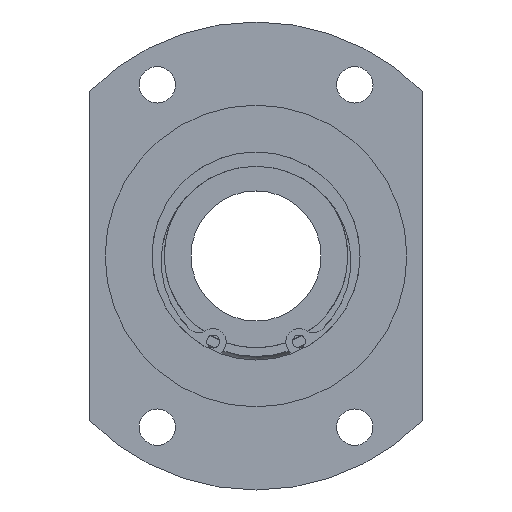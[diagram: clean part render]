
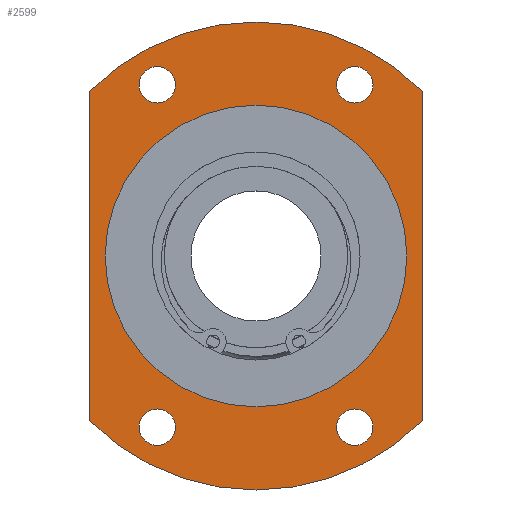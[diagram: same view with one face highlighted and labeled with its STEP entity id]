
A CAD part, left-side view. The second image highlights one B-rep face of the part: STEP entity #2599.
In plain terms, the highlighted planar face has unit normal (-1, 0, 0).
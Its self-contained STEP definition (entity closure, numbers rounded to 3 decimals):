
#2359=CARTESIAN_POINT('',(11.0,22.5,-32.909));
#2360=VERTEX_POINT('',#2359);
#2361=CARTESIAN_POINT('',(11.,19.,-32.909));
#2362=DIRECTION('',(1.0,0.0,0.0));
#2363=DIRECTION('',(0.0,1.0,0.0));
#2364=AXIS2_PLACEMENT_3D('',#2361,#2362,#2363);
#2365=CIRCLE('',#2364,3.5);
#2366=EDGE_CURVE('',#2360,#2360,#2365,.T.);
#2387=CARTESIAN_POINT('',(11.0,-15.5,32.909));
#2388=VERTEX_POINT('',#2387);
#2389=CARTESIAN_POINT('',(11.,-19.,32.909));
#2390=DIRECTION('',(1.0,0.0,0.0));
#2391=DIRECTION('',(0.0,1.0,0.0));
#2392=AXIS2_PLACEMENT_3D('',#2389,#2390,#2391);
#2393=CIRCLE('',#2392,3.5);
#2394=EDGE_CURVE('',#2388,#2388,#2393,.T.);
#2415=CARTESIAN_POINT('',(11.0,22.5,32.909));
#2416=VERTEX_POINT('',#2415);
#2417=CARTESIAN_POINT('',(11.,19.,32.909));
#2418=DIRECTION('',(1.0,0.0,0.0));
#2419=DIRECTION('',(0.0,1.0,0.0));
#2420=AXIS2_PLACEMENT_3D('',#2417,#2418,#2419);
#2421=CIRCLE('',#2420,3.5);
#2422=EDGE_CURVE('',#2416,#2416,#2421,.T.);
#2443=CARTESIAN_POINT('',(11.0,-15.5,-32.909));
#2444=VERTEX_POINT('',#2443);
#2445=CARTESIAN_POINT('',(11.,-19.,-32.909));
#2446=DIRECTION('',(1.0,0.0,0.0));
#2447=DIRECTION('',(0.0,1.0,0.0));
#2448=AXIS2_PLACEMENT_3D('',#2445,#2446,#2447);
#2449=CIRCLE('',#2448,3.5);
#2450=EDGE_CURVE('',#2444,#2444,#2449,.T.);
#2470=CARTESIAN_POINT('',(11.0,32.,-31.639));
#2471=VERTEX_POINT('',#2470);
#2478=CARTESIAN_POINT('',(11.0,32.,31.639));
#2479=VERTEX_POINT('',#2478);
#2480=CARTESIAN_POINT('',(11.0,32.,31.639));
#2481=DIRECTION('',(0.0,0.0,-1.0));
#2482=VECTOR('',#2481,63.277);
#2483=LINE('',#2480,#2482);
#2484=EDGE_CURVE('',#2479,#2471,#2483,.T.);
#2510=CARTESIAN_POINT('',(11.0,-32.,31.639));
#2511=VERTEX_POINT('',#2510);
#2518=CARTESIAN_POINT('',(11.0,-32.,-31.639));
#2519=VERTEX_POINT('',#2518);
#2520=CARTESIAN_POINT('',(11.0,-32.,-31.639));
#2521=DIRECTION('',(0.0,0.0,1.0));
#2522=VECTOR('',#2521,63.277);
#2523=LINE('',#2520,#2522);
#2524=EDGE_CURVE('',#2519,#2511,#2523,.T.);
#2549=CARTESIAN_POINT('',(11.,0.0,0.0));
#2550=DIRECTION('',(-1.0,0.0,0.0));
#2551=DIRECTION('',(0.0,0.0,1.0));
#2552=AXIS2_PLACEMENT_3D('',#2549,#2550,#2551);
#2553=CIRCLE('',#2552,45.0);
#2554=EDGE_CURVE('',#2471,#2519,#2553,.T.);
#2559=CARTESIAN_POINT('',(11.,0.0,37.0));
#2560=DIRECTION('',(-1.0,0.0,0.0));
#2561=DIRECTION('',(0.0,0.0,1.0));
#2562=AXIS2_PLACEMENT_3D('',#2559,#2560,#2561);
#2563=PLANE('',#2562);
#2564=ORIENTED_EDGE('',*,*,#2484,.T.);
#2565=ORIENTED_EDGE('',*,*,#2554,.T.);
#2566=ORIENTED_EDGE('',*,*,#2524,.T.);
#2567=CARTESIAN_POINT('',(11.,0.0,0.0));
#2568=DIRECTION('',(-1.0,0.0,0.0));
#2569=DIRECTION('',(0.0,0.0,1.0));
#2570=AXIS2_PLACEMENT_3D('',#2567,#2568,#2569);
#2571=CIRCLE('',#2570,45.0);
#2572=EDGE_CURVE('',#2511,#2479,#2571,.T.);
#2573=ORIENTED_EDGE('',*,*,#2572,.T.);
#2574=EDGE_LOOP('',(#2564,#2565,#2566,#2573));
#2575=FACE_OUTER_BOUND('',#2574,.T.);
#2576=ORIENTED_EDGE('',*,*,#2366,.T.);
#2577=EDGE_LOOP('',(#2576));
#2578=FACE_BOUND('',#2577,.T.);
#2579=ORIENTED_EDGE('',*,*,#2394,.T.);
#2580=EDGE_LOOP('',(#2579));
#2581=FACE_BOUND('',#2580,.T.);
#2582=ORIENTED_EDGE('',*,*,#2422,.T.);
#2583=EDGE_LOOP('',(#2582));
#2584=FACE_BOUND('',#2583,.T.);
#2585=ORIENTED_EDGE('',*,*,#2450,.T.);
#2586=EDGE_LOOP('',(#2585));
#2587=FACE_BOUND('',#2586,.T.);
#2588=CARTESIAN_POINT('',(11.0,0.0,29.));
#2589=VERTEX_POINT('',#2588);
#2590=CARTESIAN_POINT('',(11.0,0.0,0.0));
#2591=DIRECTION('',(-1.0,0.0,0.0));
#2592=DIRECTION('',(0.0,0.0,1.0));
#2593=AXIS2_PLACEMENT_3D('',#2590,#2591,#2592);
#2594=CIRCLE('',#2593,29.);
#2595=EDGE_CURVE('',#2589,#2589,#2594,.T.);
#2596=ORIENTED_EDGE('',*,*,#2595,.F.);
#2597=EDGE_LOOP('',(#2596));
#2598=FACE_BOUND('',#2597,.T.);
#2599=ADVANCED_FACE('',(#2575,#2578,#2581,#2584,#2587,#2598),#2563,.T.);
